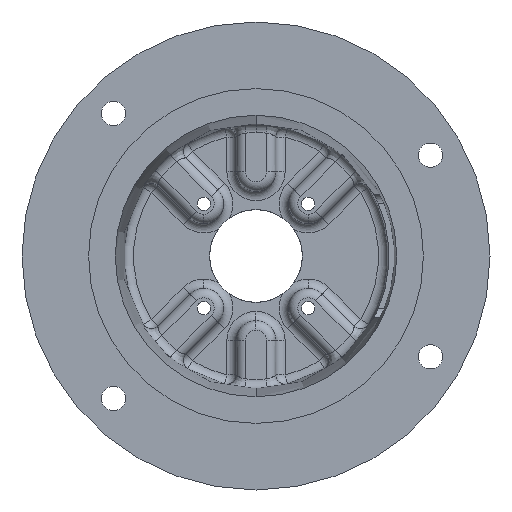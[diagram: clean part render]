
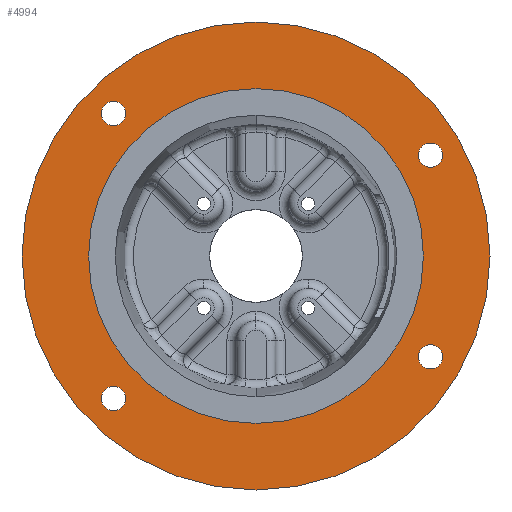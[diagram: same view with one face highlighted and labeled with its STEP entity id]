
A CAD part, front view. The second image highlights one B-rep face of the part: STEP entity #4994.
In plain terms, the highlighted planar face has unit normal (0, -1, 0).
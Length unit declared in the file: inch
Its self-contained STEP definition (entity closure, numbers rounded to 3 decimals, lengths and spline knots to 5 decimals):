
#139 = EDGE_CURVE ( 'NONE', #4070, #5013, #5427, .T. ) ;
#254 = CARTESIAN_POINT ( 'NONE',  ( 0., 0., 0. ) ) ;
#369 = CARTESIAN_POINT ( 'NONE',  ( 3.35585, 0., 1.9375 ) ) ;
#378 = CARTESIAN_POINT ( 'NONE',  ( -2.74004, 0., -2.74004 ) ) ;
#469 = EDGE_CURVE ( 'NONE', #3414, #5997, #4349, .T. ) ;
#473 = ORIENTED_EDGE ( 'NONE', *, *, #469, .F. ) ;
#522 = CARTESIAN_POINT ( 'NONE',  ( -2.74004, 0., 2.97441 ) ) ;
#627 = ORIENTED_EDGE ( 'NONE', *, *, #2802, .T. ) ;
#714 = EDGE_CURVE ( 'NONE', #5622, #4776, #4744, .T. ) ;
#723 = CARTESIAN_POINT ( 'NONE',  ( -4.5, 0., 0. ) ) ;
#760 = DIRECTION ( 'NONE',  ( 0., 0., -1. ) ) ;
#806 = DIRECTION ( 'NONE',  ( 0., -1., 0. ) ) ;
#861 = DIRECTION ( 'NONE',  ( 0., 0., -1. ) ) ;
#869 = DIRECTION ( 'NONE',  ( 0., 0., -1. ) ) ;
#899 = EDGE_CURVE ( 'NONE', #2755, #2556, #5421, .T. ) ;
#900 = ORIENTED_EDGE ( 'NONE', *, *, #899, .F. ) ;
#999 = CARTESIAN_POINT ( 'NONE',  ( 3.35585, 0., 1.70313 ) ) ;
#1134 = CARTESIAN_POINT ( 'NONE',  ( 0., 0., 0. ) ) ;
#1177 = AXIS2_PLACEMENT_3D ( 'NONE', #1713, #5148, #2212 ) ;
#1270 = EDGE_LOOP ( 'NONE', ( #627, #3081 ) ) ;
#1277 = EDGE_CURVE ( 'NONE', #6092, #2710, #1499, .T. ) ;
#1354 = CARTESIAN_POINT ( 'NONE',  ( 0., 0., 3.2195 ) ) ;
#1361 = EDGE_CURVE ( 'NONE', #4776, #5622, #5110, .T. ) ;
#1401 = EDGE_CURVE ( 'NONE', #5207, #2472, #3632, .T. ) ;
#1487 = EDGE_CURVE ( 'NONE', #5997, #3414, #5632, .T. ) ;
#1499 = CIRCLE ( 'NONE', #4087, 0.23438 ) ;
#1545 = CARTESIAN_POINT ( 'NONE',  ( 3.35585, 0., -1.70312 ) ) ;
#1638 = DIRECTION ( 'NONE',  ( 0., 0., -1. ) ) ;
#1684 = AXIS2_PLACEMENT_3D ( 'NONE', #1134, #4573, #1638 ) ;
#1694 = AXIS2_PLACEMENT_3D ( 'NONE', #723, #2237, #5647 ) ;
#1707 = EDGE_LOOP ( 'NONE', ( #2264, #473 ) ) ;
#1713 = CARTESIAN_POINT ( 'NONE',  ( -2.74004, 0., -2.74004 ) ) ;
#1795 = DIRECTION ( 'NONE',  ( 0., -1., 0. ) ) ;
#1929 = ORIENTED_EDGE ( 'NONE', *, *, #1361, .F. ) ;
#1950 = DIRECTION ( 'NONE',  ( 0., -1., 0. ) ) ;
#1964 = CARTESIAN_POINT ( 'NONE',  ( 3.35585, 0., -2.17187 ) ) ;
#2152 = CARTESIAN_POINT ( 'NONE',  ( -2.74004, 0., 2.74004 ) ) ;
#2164 = FACE_OUTER_BOUND ( 'NONE', #1270, .T. ) ;
#2212 = DIRECTION ( 'NONE',  ( 0., 0., -1. ) ) ;
#2237 = DIRECTION ( 'NONE',  ( 0., 1., 0. ) ) ;
#2245 = EDGE_LOOP ( 'NONE', ( #900, #4548 ) ) ;
#2264 = ORIENTED_EDGE ( 'NONE', *, *, #1487, .F. ) ;
#2312 = FACE_BOUND ( 'NONE', #1707, .T. ) ;
#2316 = CARTESIAN_POINT ( 'NONE',  ( -2.74004, 0., 2.74004 ) ) ;
#2331 = EDGE_CURVE ( 'NONE', #2710, #6092, #3110, .T. ) ;
#2472 = VERTEX_POINT ( 'NONE', #3663 ) ;
#2556 = VERTEX_POINT ( 'NONE', #1354 ) ;
#2590 = CARTESIAN_POINT ( 'NONE',  ( 3.35585, 0., 1.9375 ) ) ;
#2640 = DIRECTION ( 'NONE',  ( 0., 0., -1. ) ) ;
#2710 = VERTEX_POINT ( 'NONE', #1545 ) ;
#2755 = VERTEX_POINT ( 'NONE', #3499 ) ;
#2802 = EDGE_CURVE ( 'NONE', #5013, #4070, #6306, .T. ) ;
#2804 = DIRECTION ( 'NONE',  ( 0., 0., -1. ) ) ;
#2839 = CARTESIAN_POINT ( 'NONE',  ( -2.74004, 0., -2.97441 ) ) ;
#2904 = AXIS2_PLACEMENT_3D ( 'NONE', #4885, #1950, #5368 ) ;
#2920 = DIRECTION ( 'NONE',  ( 0., -1., 0. ) ) ;
#2934 = CARTESIAN_POINT ( 'NONE',  ( -2.74004, 0., -2.50566 ) ) ;
#2989 = AXIS2_PLACEMENT_3D ( 'NONE', #378, #3798, #869 ) ;
#3017 = EDGE_LOOP ( 'NONE', ( #3068, #4650 ) ) ;
#3026 = AXIS2_PLACEMENT_3D ( 'NONE', #2152, #5574, #2640 ) ;
#3040 = ORIENTED_EDGE ( 'NONE', *, *, #714, .F. ) ;
#3068 = ORIENTED_EDGE ( 'NONE', *, *, #1401, .F. ) ;
#3077 = DIRECTION ( 'NONE',  ( 0., 0., -1. ) ) ;
#3081 = ORIENTED_EDGE ( 'NONE', *, *, #139, .T. ) ;
#3110 = CIRCLE ( 'NONE', #2904, 0.23438 ) ;
#3414 = VERTEX_POINT ( 'NONE', #2934 ) ;
#3436 = FACE_BOUND ( 'NONE', #2245, .T. ) ;
#3499 = CARTESIAN_POINT ( 'NONE',  ( 0., 0., -3.2195 ) ) ;
#3569 = ORIENTED_EDGE ( 'NONE', *, *, #2331, .F. ) ;
#3632 = CIRCLE ( 'NONE', #6059, 0.23438 ) ;
#3663 = CARTESIAN_POINT ( 'NONE',  ( 3.35585, 0., 2.17188 ) ) ;
#3689 = DIRECTION ( 'NONE',  ( 0., -1., 0. ) ) ;
#3732 = CARTESIAN_POINT ( 'NONE',  ( 3.35585, 0., -1.9375 ) ) ;
#3788 = DIRECTION ( 'NONE',  ( 0., -1., 0. ) ) ;
#3798 = DIRECTION ( 'NONE',  ( 0., -1., 0. ) ) ;
#3799 = EDGE_LOOP ( 'NONE', ( #4512, #3569 ) ) ;
#3823 = EDGE_CURVE ( 'NONE', #2472, #5207, #4283, .T. ) ;
#3856 = CARTESIAN_POINT ( 'NONE',  ( -2.74004, 0., 2.50566 ) ) ;
#3951 = EDGE_LOOP ( 'NONE', ( #1929, #3040 ) ) ;
#4019 = AXIS2_PLACEMENT_3D ( 'NONE', #4733, #1795, #5226 ) ;
#4070 = VERTEX_POINT ( 'NONE', #5477 ) ;
#4087 = AXIS2_PLACEMENT_3D ( 'NONE', #3732, #806, #4235 ) ;
#4204 = CIRCLE ( 'NONE', #4019, 3.2195 ) ;
#4235 = DIRECTION ( 'NONE',  ( 0., 0., -1. ) ) ;
#4265 = AXIS2_PLACEMENT_3D ( 'NONE', #2590, #6001, #3077 ) ;
#4283 = CIRCLE ( 'NONE', #4265, 0.23438 ) ;
#4310 = EDGE_CURVE ( 'NONE', #2556, #2755, #4204, .T. ) ;
#4349 = CIRCLE ( 'NONE', #1177, 0.23437 ) ;
#4512 = ORIENTED_EDGE ( 'NONE', *, *, #1277, .F. ) ;
#4548 = ORIENTED_EDGE ( 'NONE', *, *, #4310, .F. ) ;
#4573 = DIRECTION ( 'NONE',  ( 0., -1., 0. ) ) ;
#4650 = ORIENTED_EDGE ( 'NONE', *, *, #3823, .F. ) ;
#4699 = CARTESIAN_POINT ( 'NONE',  ( 0., 0., -4.5 ) ) ;
#4733 = CARTESIAN_POINT ( 'NONE',  ( 0., 0., 0. ) ) ;
#4744 = CIRCLE ( 'NONE', #3026, 0.23438 ) ;
#4766 = FACE_BOUND ( 'NONE', #3951, .T. ) ;
#4776 = VERTEX_POINT ( 'NONE', #3856 ) ;
#4885 = CARTESIAN_POINT ( 'NONE',  ( 3.35585, 0., -1.9375 ) ) ;
#4994 = ADVANCED_FACE ( 'NONE', ( #6052, #5227, #2312, #4766, #3436, #2164 ), #5169, .F. ) ;
#5013 = VERTEX_POINT ( 'NONE', #4699 ) ;
#5095 = AXIS2_PLACEMENT_3D ( 'NONE', #2316, #5724, #2804 ) ;
#5110 = CIRCLE ( 'NONE', #5095, 0.23438 ) ;
#5148 = DIRECTION ( 'NONE',  ( 0., -1., 0. ) ) ;
#5169 = PLANE ( 'NONE',  #1694 ) ;
#5207 = VERTEX_POINT ( 'NONE', #999 ) ;
#5226 = DIRECTION ( 'NONE',  ( 0., 0., -1. ) ) ;
#5227 = FACE_BOUND ( 'NONE', #3799, .T. ) ;
#5368 = DIRECTION ( 'NONE',  ( 0., 0., -1. ) ) ;
#5421 = CIRCLE ( 'NONE', #5970, 3.2195 ) ;
#5427 = CIRCLE ( 'NONE', #6018, 4.5 ) ;
#5477 = CARTESIAN_POINT ( 'NONE',  ( 0., 0., 4.5 ) ) ;
#5574 = DIRECTION ( 'NONE',  ( 0., -1., 0. ) ) ;
#5622 = VERTEX_POINT ( 'NONE', #522 ) ;
#5632 = CIRCLE ( 'NONE', #2989, 0.23437 ) ;
#5647 = DIRECTION ( 'NONE',  ( 0., 0., 1. ) ) ;
#5724 = DIRECTION ( 'NONE',  ( 0., -1., 0. ) ) ;
#5842 = CARTESIAN_POINT ( 'NONE',  ( 0., 0., 0. ) ) ;
#5970 = AXIS2_PLACEMENT_3D ( 'NONE', #254, #3689, #760 ) ;
#5997 = VERTEX_POINT ( 'NONE', #2839 ) ;
#6001 = DIRECTION ( 'NONE',  ( 0., -1., 0. ) ) ;
#6018 = AXIS2_PLACEMENT_3D ( 'NONE', #5842, #2920, #6341 ) ;
#6052 = FACE_BOUND ( 'NONE', #3017, .T. ) ;
#6059 = AXIS2_PLACEMENT_3D ( 'NONE', #369, #3788, #861 ) ;
#6092 = VERTEX_POINT ( 'NONE', #1964 ) ;
#6306 = CIRCLE ( 'NONE', #1684, 4.5 ) ;
#6341 = DIRECTION ( 'NONE',  ( 0., 0., -1. ) ) ;
